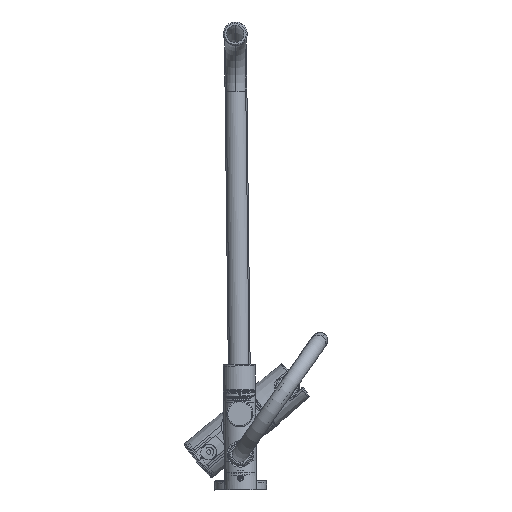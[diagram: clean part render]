
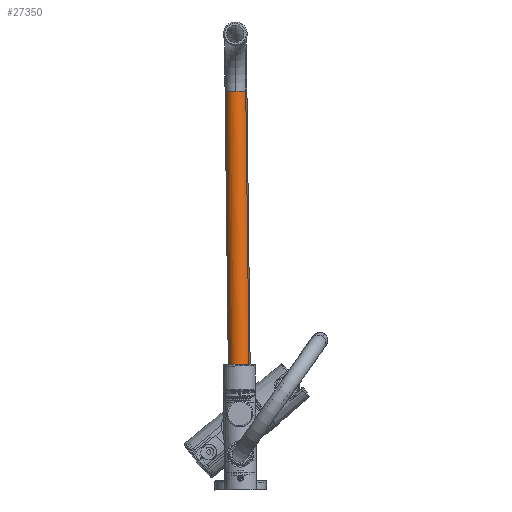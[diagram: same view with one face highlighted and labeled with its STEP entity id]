
A CAD part, front view. The second image highlights one B-rep face of the part: STEP entity #27350.
In plain terms, the highlighted cylindrical face has radius 9.5 mm (diameter 19 mm), a full revolution.
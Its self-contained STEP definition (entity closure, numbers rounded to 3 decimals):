
#2662=FACE_OUTER_BOUND('',#4276,.T.);
#4276=EDGE_LOOP('',(#22715,#22716,#22717,#22718,#22719,#22720,#22721,#22722));
#5865=CIRCLE('',#30090,9.5);
#5866=CIRCLE('',#30092,9.5);
#5867=CIRCLE('',#30093,9.5);
#5868=CIRCLE('',#30095,9.5);
#5869=CIRCLE('',#30096,9.5);
#5870=CIRCLE('',#30097,9.5);
#8069=LINE('',#73950,#9487);
#9487=VECTOR('',#36530,9.5);
#11885=VERTEX_POINT('',#73939);
#11886=VERTEX_POINT('',#73941);
#11887=VERTEX_POINT('',#73945);
#11888=VERTEX_POINT('',#73949);
#11889=VERTEX_POINT('',#73951);
#11890=VERTEX_POINT('',#73953);
#15604=EDGE_CURVE('',#11886,#11885,#5865,.T.);
#15605=EDGE_CURVE('',#11885,#11887,#5866,.T.);
#15606=EDGE_CURVE('',#11887,#11886,#5867,.T.);
#15607=EDGE_CURVE('',#11887,#11888,#8069,.T.);
#15608=EDGE_CURVE('',#11888,#11889,#5868,.T.);
#15609=EDGE_CURVE('',#11889,#11890,#5869,.T.);
#15610=EDGE_CURVE('',#11890,#11888,#5870,.T.);
#22715=ORIENTED_EDGE('',*,*,#15604,.F.);
#22716=ORIENTED_EDGE('',*,*,#15606,.F.);
#22717=ORIENTED_EDGE('',*,*,#15607,.T.);
#22718=ORIENTED_EDGE('',*,*,#15608,.T.);
#22719=ORIENTED_EDGE('',*,*,#15609,.T.);
#22720=ORIENTED_EDGE('',*,*,#15610,.T.);
#22721=ORIENTED_EDGE('',*,*,#15607,.F.);
#22722=ORIENTED_EDGE('',*,*,#15605,.F.);
#24624=CYLINDRICAL_SURFACE('',#30094,9.5);
#27350=ADVANCED_FACE('',(#2662),#24624,.T.);
#30090=AXIS2_PLACEMENT_3D('',#73943,#36520,#36521);
#30092=AXIS2_PLACEMENT_3D('',#73946,#36524,#36525);
#30093=AXIS2_PLACEMENT_3D('',#73947,#36526,#36527);
#30094=AXIS2_PLACEMENT_3D('',#73948,#36528,#36529);
#30095=AXIS2_PLACEMENT_3D('',#73952,#36531,#36532);
#30096=AXIS2_PLACEMENT_3D('',#73954,#36533,#36534);
#30097=AXIS2_PLACEMENT_3D('',#73955,#36535,#36536);
#36520=DIRECTION('center_axis',(-0.012,0.,
1.));
#36521=DIRECTION('ref_axis',(0.,1.,0.));
#36524=DIRECTION('center_axis',(-0.012,0.,
1.));
#36525=DIRECTION('ref_axis',(0.,-1.,0.));
#36526=DIRECTION('center_axis',(-0.012,0.,
1.));
#36527=DIRECTION('ref_axis',(0.,-1.,0.));
#36528=DIRECTION('center_axis',(-0.012,0.,
1.));
#36529=DIRECTION('ref_axis',(-0.075,-0.997,-0.001));
#36530=DIRECTION('',(0.012,0.,-1.));
#36531=DIRECTION('center_axis',(-0.012,0.,
1.));
#36532=DIRECTION('ref_axis',(0.,-1.,0.));
#36533=DIRECTION('center_axis',(-0.012,0.,
1.));
#36534=DIRECTION('ref_axis',(0.,1.,0.));
#36535=DIRECTION('center_axis',(-0.012,0.,
1.));
#36536=DIRECTION('ref_axis',(0.,-1.,0.));
#73939=CARTESIAN_POINT('',(-24.56,1360.983,-164.571));
#73941=CARTESIAN_POINT('',(-24.56,1379.983,-164.571));
#73943=CARTESIAN_POINT('Origin',(-24.56,1370.483,-164.571));
#73945=CARTESIAN_POINT('',(-23.849,1379.957,-164.563));
#73946=CARTESIAN_POINT('Origin',(-24.56,1370.483,-164.571));
#73947=CARTESIAN_POINT('Origin',(-24.56,1370.483,-164.571));
#73948=CARTESIAN_POINT('Origin',(-23.135,1370.484,-285.063));
#73949=CARTESIAN_POINT('',(-21.,1379.957,-405.546));
#73950=CARTESIAN_POINT('',(-22.424,1379.957,-285.054));
#73951=CARTESIAN_POINT('',(-21.711,1379.984,-405.554));
#73952=CARTESIAN_POINT('Origin',(-21.711,1370.484,-405.554));
#73953=CARTESIAN_POINT('',(-21.711,1360.984,-405.554));
#73954=CARTESIAN_POINT('Origin',(-21.711,1370.484,-405.554));
#73955=CARTESIAN_POINT('Origin',(-21.711,1370.484,-405.554));
